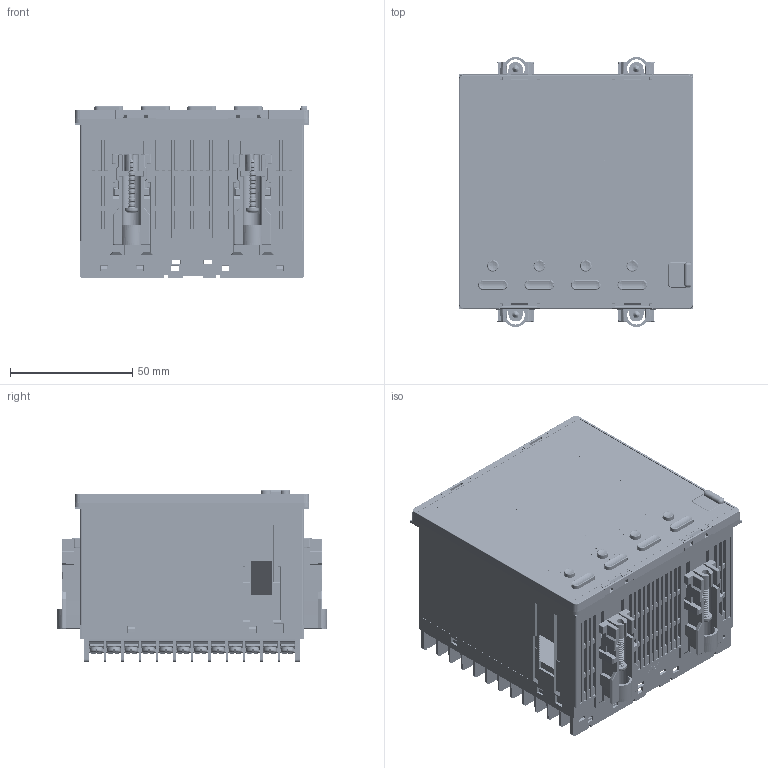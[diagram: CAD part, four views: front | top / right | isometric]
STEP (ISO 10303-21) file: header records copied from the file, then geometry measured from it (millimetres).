
FILE_DESCRIPTION (( 'STEP AP203' ), '1' );
FILE_NAME ('YIGZ900-9 (0).STEP', '2020-06-12T03:34:56', ( '' ), ( '' ), 'SwSTEP 2.0', 'SolidWorks 2018', '' );
FILE_SCHEMA (( 'CONFIG_CONTROL_DESIGN' ));
Products named in the file (1): YIGZ900-9 (0)
Bounding box: 96 x 110.45 x 70.6 mm (x, y, z)
Volume: 516273.6 mm3; surface area: 101448.4 mm2
Topology: 11 solids, 21 shells, 15733 faces, 43112 edges, 27952 vertices
Faces by surface type: plane 9567, bspline 3762, cylinder 1666, cone 364, sphere 228, torus 146
Entity records: 573654 total; most frequent: CARTESIAN_POINT 200827, ORIENTED_EDGE 85832, DIRECTION 62463, EDGE_CURVE 42916, VECTOR 31077, LINE 31077, VERTEX_POINT 27952, EDGE_LOOP 16540
